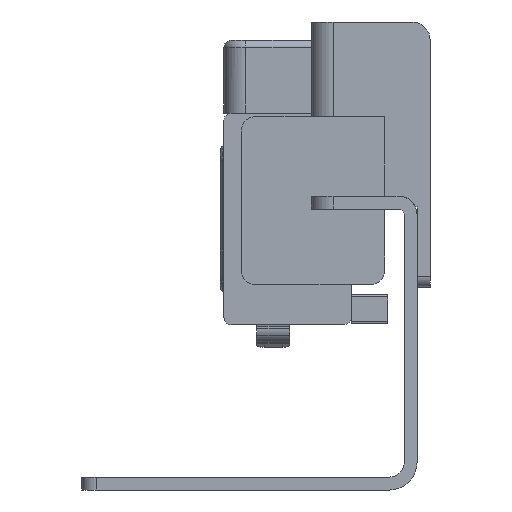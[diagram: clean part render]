
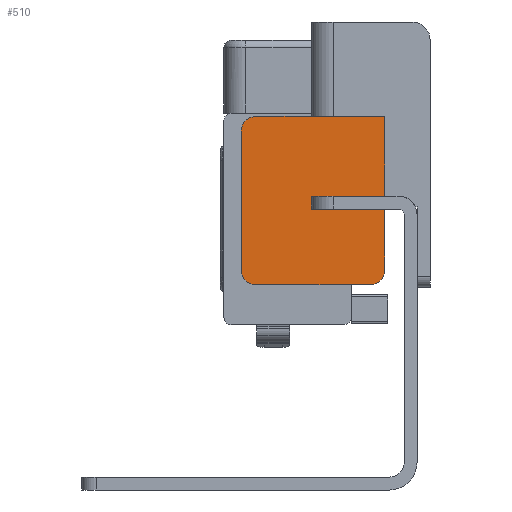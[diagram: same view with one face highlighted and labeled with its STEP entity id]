
A CAD part, left-side view. The second image highlights one B-rep face of the part: STEP entity #510.
In plain terms, the highlighted planar face has unit normal (-1, 0, 0).
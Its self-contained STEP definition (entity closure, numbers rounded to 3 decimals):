
#67 = LINE ( 'NONE', #3780, #446 ) ;
#80 = EDGE_CURVE ( 'NONE', #356, #5647, #5574, .T. ) ;
#232 = DIRECTION ( 'NONE',  ( 0., -1., 0. ) ) ;
#240 = VERTEX_POINT ( 'NONE', #867 ) ;
#256 = AXIS2_PLACEMENT_3D ( 'NONE', #2961, #7027, #3548 ) ;
#264 = VERTEX_POINT ( 'NONE', #813 ) ;
#321 = DIRECTION ( 'NONE',  ( 0., 0., 1. ) ) ;
#356 = VERTEX_POINT ( 'NONE', #4186 ) ;
#446 = VECTOR ( 'NONE', #232, 1000. ) ;
#492 = DIRECTION ( 'NONE',  ( 1., 0., 0. ) ) ;
#510 = ADVANCED_FACE ( 'NONE', ( #2588 ), #2227, .F. ) ;
#563 = VECTOR ( 'NONE', #1563, 1000. ) ;
#590 = CARTESIAN_POINT ( 'NONE',  ( -84., 22.13, -31.895 ) ) ;
#673 = VERTEX_POINT ( 'NONE', #2252 ) ;
#720 = CARTESIAN_POINT ( 'NONE',  ( -84., 22.13, -33.895 ) ) ;
#776 = CARTESIAN_POINT ( 'NONE',  ( -84., 4.43, -31.895 ) ) ;
#795 = VERTEX_POINT ( 'NONE', #590 ) ;
#813 = CARTESIAN_POINT ( 'NONE',  ( -84., 22.13, -54.995 ) ) ;
#830 = EDGE_CURVE ( 'NONE', #3917, #5844, #6614, .T. ) ;
#867 = CARTESIAN_POINT ( 'NONE',  ( -84., 4.43, -31.895 ) ) ;
#877 = EDGE_CURVE ( 'NONE', #673, #2927, #1596, .T. ) ;
#1082 = ORIENTED_EDGE ( 'NONE', *, *, #5866, .F. ) ;
#1330 = DIRECTION ( 'NONE',  ( 0., 0., 1. ) ) ;
#1351 = ORIENTED_EDGE ( 'NONE', *, *, #7276, .F. ) ;
#1404 = DIRECTION ( 'NONE',  ( 0., 1., 0. ) ) ;
#1455 = CARTESIAN_POINT ( 'NONE',  ( -84., 4.43, -31.895 ) ) ;
#1563 = DIRECTION ( 'NONE',  ( 0., 0., -1. ) ) ;
#1596 = LINE ( 'NONE', #2703, #6089 ) ;
#1806 = EDGE_CURVE ( 'NONE', #240, #795, #2165, .T. ) ;
#1955 = EDGE_CURVE ( 'NONE', #5647, #795, #5784, .T. ) ;
#1958 = CARTESIAN_POINT ( 'NONE',  ( -84., 6.43, -54.995 ) ) ;
#1961 = CARTESIAN_POINT ( 'NONE',  ( -84., 4.43, -38.365 ) ) ;
#2152 = EDGE_CURVE ( 'NONE', #673, #3917, #5861, .T. ) ;
#2165 = LINE ( 'NONE', #776, #3746 ) ;
#2227 = PLANE ( 'NONE',  #3822 ) ;
#2252 = CARTESIAN_POINT ( 'NONE',  ( -84., 14.5, -44.63 ) ) ;
#2436 = EDGE_CURVE ( 'NONE', #5844, #2655, #6388, .T. ) ;
#2550 = DIRECTION ( 'NONE',  ( 0., 0., 1. ) ) ;
#2588 = FACE_OUTER_BOUND ( 'NONE', #6252, .T. ) ;
#2652 = AXIS2_PLACEMENT_3D ( 'NONE', #4041, #492, #4639 ) ;
#2655 = VERTEX_POINT ( 'NONE', #1958 ) ;
#2703 = CARTESIAN_POINT ( 'NONE',  ( -84., 14.5, -42.86 ) ) ;
#2718 = VECTOR ( 'NONE', #7342, 1000. ) ;
#2764 = DIRECTION ( 'NONE',  ( 0., 0., 1. ) ) ;
#2927 = VERTEX_POINT ( 'NONE', #4594 ) ;
#2955 = DIRECTION ( 'NONE',  ( 0., 1., 0. ) ) ;
#2961 = CARTESIAN_POINT ( 'NONE',  ( -84., 6.43, -52.995 ) ) ;
#3013 = CIRCLE ( 'NONE', #2652, 2. ) ;
#3366 = CARTESIAN_POINT ( 'NONE',  ( -84., 24.13, -31.895 ) ) ;
#3371 = LINE ( 'NONE', #6457, #4762 ) ;
#3483 = ORIENTED_EDGE ( 'NONE', *, *, #830, .F. ) ;
#3548 = DIRECTION ( 'NONE',  ( 0., 0., 1. ) ) ;
#3598 = ORIENTED_EDGE ( 'NONE', *, *, #877, .T. ) ;
#3702 = DIRECTION ( 'NONE',  ( 0., 0., 1. ) ) ;
#3705 = ORIENTED_EDGE ( 'NONE', *, *, #1806, .T. ) ;
#3746 = VECTOR ( 'NONE', #1404, 1000. ) ;
#3780 = CARTESIAN_POINT ( 'NONE',  ( -84., 21.53, -54.995 ) ) ;
#3817 = VECTOR ( 'NONE', #3702, 1000. ) ;
#3822 = AXIS2_PLACEMENT_3D ( 'NONE', #6880, #6988, #321 ) ;
#3880 = CARTESIAN_POINT ( 'NONE',  ( -84., 12.15, -44.63 ) ) ;
#3917 = VERTEX_POINT ( 'NONE', #5621 ) ;
#4041 = CARTESIAN_POINT ( 'NONE',  ( -84., 22.13, -52.995 ) ) ;
#4186 = CARTESIAN_POINT ( 'NONE',  ( -84., 24.13, -52.995 ) ) ;
#4346 = LINE ( 'NONE', #1961, #7214 ) ;
#4405 = EDGE_CURVE ( 'NONE', #264, #2655, #67, .T. ) ;
#4594 = CARTESIAN_POINT ( 'NONE',  ( -84., 14.5, -42.86 ) ) ;
#4639 = DIRECTION ( 'NONE',  ( 0., 0., 1. ) ) ;
#4762 = VECTOR ( 'NONE', #2955, 1000. ) ;
#4833 = ORIENTED_EDGE ( 'NONE', *, *, #1955, .F. ) ;
#4842 = ORIENTED_EDGE ( 'NONE', *, *, #80, .F. ) ;
#4856 = DIRECTION ( 'NONE',  ( 1., 0., 0. ) ) ;
#5098 = CARTESIAN_POINT ( 'NONE',  ( -84., 4.43, -42.86 ) ) ;
#5242 = EDGE_CURVE ( 'NONE', #7120, #240, #4346, .T. ) ;
#5325 = CARTESIAN_POINT ( 'NONE',  ( -84., 24.13, -33.895 ) ) ;
#5461 = AXIS2_PLACEMENT_3D ( 'NONE', #720, #4856, #1330 ) ;
#5574 = LINE ( 'NONE', #3366, #3817 ) ;
#5621 = CARTESIAN_POINT ( 'NONE',  ( -84., 4.43, -44.63 ) ) ;
#5647 = VERTEX_POINT ( 'NONE', #5325 ) ;
#5784 = CIRCLE ( 'NONE', #5461, 2. ) ;
#5844 = VERTEX_POINT ( 'NONE', #7444 ) ;
#5861 = LINE ( 'NONE', #3880, #2718 ) ;
#5866 = EDGE_CURVE ( 'NONE', #264, #356, #3013, .T. ) ;
#5908 = ORIENTED_EDGE ( 'NONE', *, *, #4405, .T. ) ;
#6089 = VECTOR ( 'NONE', #2764, 1000. ) ;
#6252 = EDGE_LOOP ( 'NONE', ( #3598, #1351, #6353, #3705, #4833, #4842, #1082, #5908, #6838, #3483, #7212 ) ) ;
#6353 = ORIENTED_EDGE ( 'NONE', *, *, #5242, .T. ) ;
#6388 = CIRCLE ( 'NONE', #256, 2. ) ;
#6457 = CARTESIAN_POINT ( 'NONE',  ( -84., 12.42, -42.86 ) ) ;
#6614 = LINE ( 'NONE', #1455, #563 ) ;
#6838 = ORIENTED_EDGE ( 'NONE', *, *, #2436, .F. ) ;
#6880 = CARTESIAN_POINT ( 'NONE',  ( -84., 21.53, -46.295 ) ) ;
#6988 = DIRECTION ( 'NONE',  ( 1., 0., 0. ) ) ;
#7027 = DIRECTION ( 'NONE',  ( 1., 0., 0. ) ) ;
#7120 = VERTEX_POINT ( 'NONE', #5098 ) ;
#7212 = ORIENTED_EDGE ( 'NONE', *, *, #2152, .F. ) ;
#7214 = VECTOR ( 'NONE', #2550, 1000. ) ;
#7276 = EDGE_CURVE ( 'NONE', #7120, #2927, #3371, .T. ) ;
#7342 = DIRECTION ( 'NONE',  ( 0., -1., 0. ) ) ;
#7444 = CARTESIAN_POINT ( 'NONE',  ( -84., 4.43, -52.995 ) ) ;
